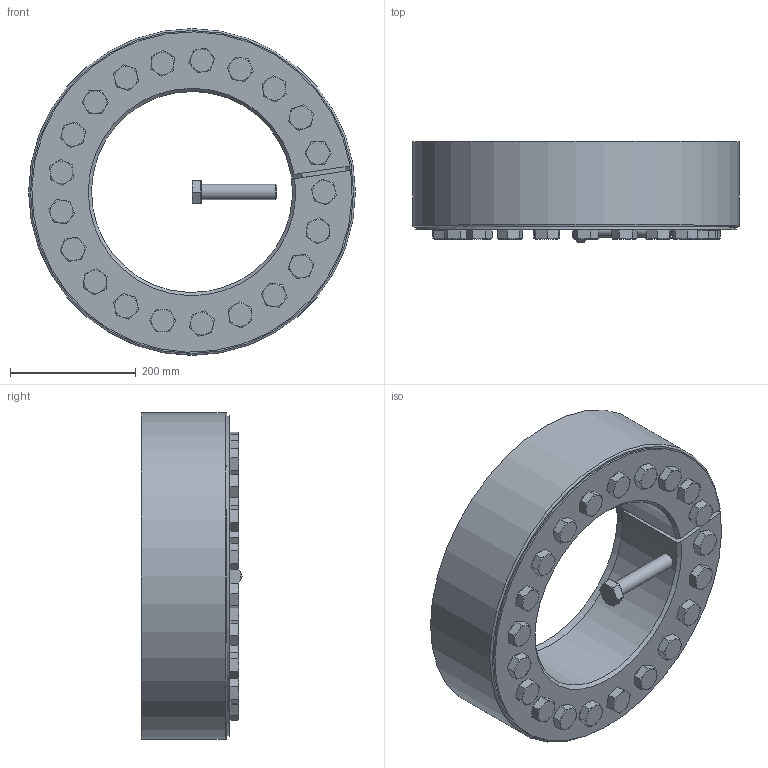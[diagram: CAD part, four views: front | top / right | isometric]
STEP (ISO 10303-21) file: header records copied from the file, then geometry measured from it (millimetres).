
FILE_DESCRIPTION( ( 'Unknown' ), '1' );
FILE_NAME( 'C:/Dokumente und Einstellungen/Sven/Desktop/homepage/cad - homepage/KBS19-1/KBS 19_1 - 320 x 520.stp', 'Unknown', ( 'Unknown' ), ( 'Unknown' ), 'XStep 1.0', 'Unknown', ' ' );
FILE_SCHEMA( ( 'automotive_design' ) );
Length unit declared in the file: millimetre
Products named in the file (3): Assem1; KBS 19_1 - 320 x 520; ISO 4017 - M24 x 120-N
Bounding box: 520 x 160.78 x 520 mm (x, y, z)
Volume: 35630359.1 mm3; surface area: 1975166.9 mm2
Topology: 24 solids, 24 shells, 622 faces, 1386 edges, 834 vertices
Faces by surface type: plane 348, cone 160, cylinder 90, torus 24
Full cylindrical faces by diameter (mm): 24 x64, 36 x22, 520 x2
Entity records: 2282 total; most frequent: CARTESIAN_POINT 383, DIRECTION 344, ORIENTED_EDGE 250, AXIS2_PLACEMENT_3D 153, EDGE_LOOP 133, EDGE_CURVE 125, VERTEX_POINT 96, FACE_OUTER_BOUND 87
